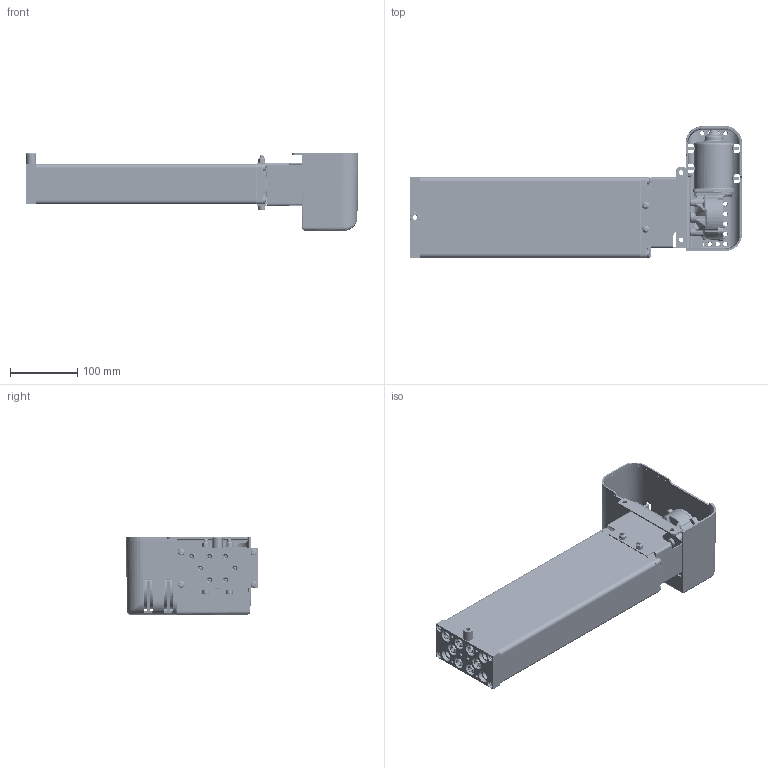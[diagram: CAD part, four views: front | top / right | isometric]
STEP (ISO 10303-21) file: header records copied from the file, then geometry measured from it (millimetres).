
FILE_DESCRIPTION(/* description */ ('Unknown'),/* implementation_level */ '2;1');
FILE_NAME(/* name */ '3X2.20262 Pumpe PB 7820 W mit Antrieb',/* time_stamp */ '2016-11-25T10:22:50+01:00',/* author */ ('Unknown'),/* organization */ ('Unknown'),/* preprocessor_version */ 'ST-DEVELOPER v16.7',/* originating_system */ 'DEX',/* authorisation */ $);
FILE_SCHEMA (('AUTOMOTIVE_DESIGN {1 0 10303 214 3 1 1}'));
Products named in the file (33): 102.20262; 115.10032; 125.00061; 115.00008; 142.00021; 125.00021; 142.00013; 125.00142; 115.00140; 126.00006; 122.00040; 119.00042; 126.00036; 127.00201; 127.00200; 127.00023; 124.00090; Getriebe; Ring; Schraube; Stator; Abdeckplatte; Antriebswelle; 128.00051; 123.00031; 142.00018; 142.00019; 142.00025; 142.00131; 123.00029; 142.00057; 142.00083; 142.00017
Assembly tree (54 placements, depth 3):
  102.20262
    115.10032  x7
      125.00061
      115.00008
      142.00021
      125.00021
    142.00013  x8
    125.00142
    115.00140
      126.00006
      122.00040
    119.00042
    126.00036
    127.00201
      127.00200
      127.00023
    124.00090
      Getriebe
      Ring
      Schraube
      Stator
      Abdeckplatte
      Antriebswelle
    128.00051
    123.00031
    142.00018  x2
    142.00019  x2
    142.00025  x2
    142.00131  x3
    123.00029
    142.00057
    142.00083  x4
    142.00017  x2
Bounding box: 494.45 x 196.04 x 115.45 mm (x, y, z)
Volume: 999562.5 mm3; surface area: 624657.6 mm2
Topology: 61 solids, 63 shells, 4369 faces, 10949 edges, 6709 vertices
Faces by surface type: plane 1371, cylinder 1177, bspline 1040, cone 482, torus 202, sphere 97
Full cylindrical faces by diameter (mm): 2.5 x4, 3.2 x4, 3.5 x7, 3.9 x5, 4.1 x7, 4.134 x4, 4.2 x9, 4.4 x5, 4.5 x1, 4.917 x4, 5 x12, 5.5 x5, 5.8 x4, 6 x8, 6.4 x2, 6.8 x6, 6.917 x14, 7 x1, 8 x16, 8.5 x10, 9 x2, 9.5 x1, 9.8 x8, 10 x10, 10.3 x1, 10.32 x1, 10.4 x1, 10.5 x4, 11 x5, 12.5 x7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
Entity records: 165434 total; most frequent: CARTESIAN_POINT 80682, ORIENTED_EDGE 16058, DIRECTION 12091, EDGE_CURVE 8029, VERTEX_POINT 5273, AXIS2_PLACEMENT_3D 4680, FACE_BOUND 4022, EDGE_LOOP 4017
